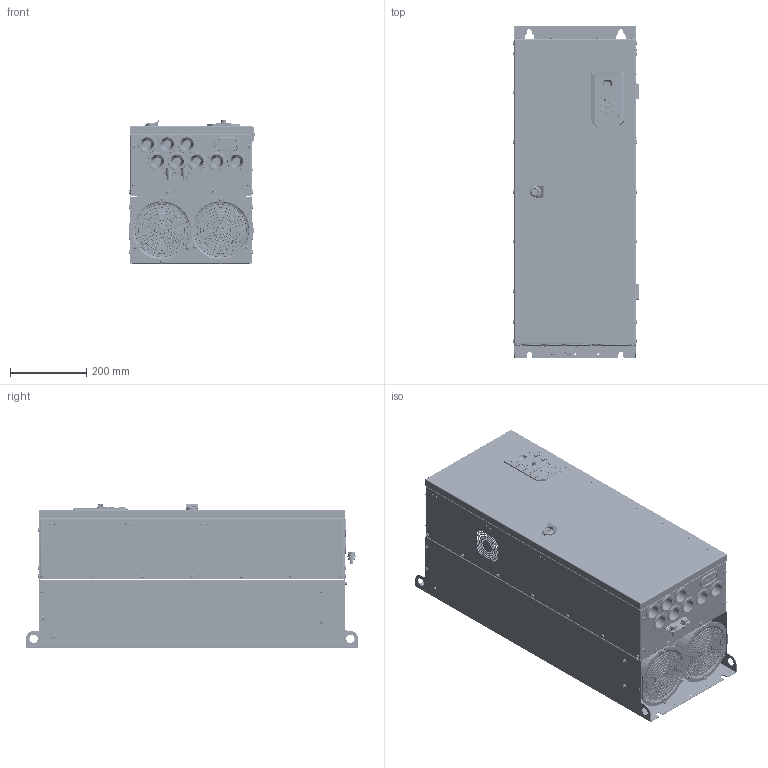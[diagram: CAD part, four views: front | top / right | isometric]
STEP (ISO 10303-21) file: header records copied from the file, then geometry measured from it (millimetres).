
FILE_DESCRIPTION((''),'2;1');
FILE_NAME('AD800-D7-DRIVE_ASM','2024-12-12T14:10:30',('Optimus Drive'),(''),'CREO PARAMETRIC BY PTC INC, 2018100','CREO PARAMETRIC BY PTC INC, 2018100','');
FILE_SCHEMA(('CONFIG_CONTROL_DESIGN','GEOMETRIC_VALIDATION_PROPERTIES_MIM'));
Products named in the file (94): D7-MECHANICAL-PART; M0100062; M0100062_ASM; M0104027; M0104016; M0104018; E0100102; 0805-LED; E0300012; E0200191; E0200192; E0400038; E0400035; E0400011; E0100102_ASM; M0104017; M0203163; EXTERNAL_KEYPAD_ASM; M0204019; 1092130761; 1092130763; 1092130764; MS705-1B; M0204017_ASM; M0204018; M0202041; M0203053; D7-DOOR-ASM_ASM; M0202034; RIVETING-NUT-4_; P_FHS_5_12_; M0202002; M3-SPRING_FLAT; M3-WASHER; M0202002_ASM; M0202007; M0100015; M0202003; M10-25; M10-SPRING_FLAT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
Assembly tree (535 placements, depth 5):
  AD800-D7-DRIVE_ASM
    D7-MECHANICAL-PART
    D7-DOOR-ASM_ASM
      M0100062_ASM
        M0100062
      M0104027
      EXTERNAL_KEYPAD_ASM
        M0104016
        M0104018
        E0100102_ASM
          E0100102
          0805-LED  x6
          E0300012
          E0200191
          E0200192
          E0400038  x6
          E0400035
          E0400011
        M0104017
        M0203163
      M0204019
      M0204017_ASM
        1092130761
        1092130763
        1092130764
        MS705-1B
      M0204018  x4
      M0202041  x8
      M0203053
    D7-FASTEN_ASM
      M0202034  x36
      RIVETING-NUT-4_  x10
      P_FHS_5_12_  x6
      M0202002_ASM  x2
        M0202002
        M3-SPRING_FLAT
        M3-WASHER
      M0202007  x28
      M0100015  x2
      M0202003  x6
      M0202036_ASM  x10
        M10-25
        M10-SPRING_FLAT
        M10-WASHER
      M0202037_ASM  x3
        M12-25
        M12-SPRING_FLAT
        M12-WASHER
      M0202010  x6
      M0202040  x8
      M0202014
    M0204012  x8
    M0204033
    E0400077  x3
    M0204014
    17251_ASM_ASM  x2
      PRT0001_7
      17251-5YE-2B_1
    M0200005  x2
    M0104030
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Bounding box: 332.5 x 870 x 379 mm (x, y, z)
Volume: 4406218.8 mm3; surface area: 4449485.3 mm2
Topology: 688 solids, 774 shells, 42218 faces, 109701 edges, 70209 vertices
Faces by surface type: plane 24657, cylinder 9404, bspline 3635, extrusion 1601, torus 1304, cone 1161, sphere 456
Entity records: 928289 total; most frequent: CARTESIAN_POINT 212582, ORIENTED_EDGE 114482, DIRECTION 101758, EDGE_CURVE 57418, PRESENTATION_STYLE_ASSIGNMENT 45389, STYLED_ITEM 42752, VECTOR 41762, LINE 40164
